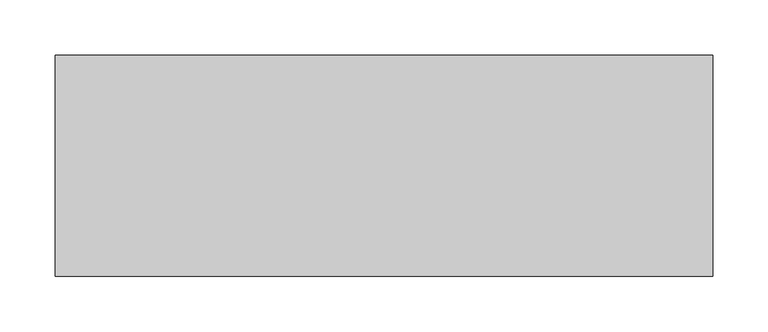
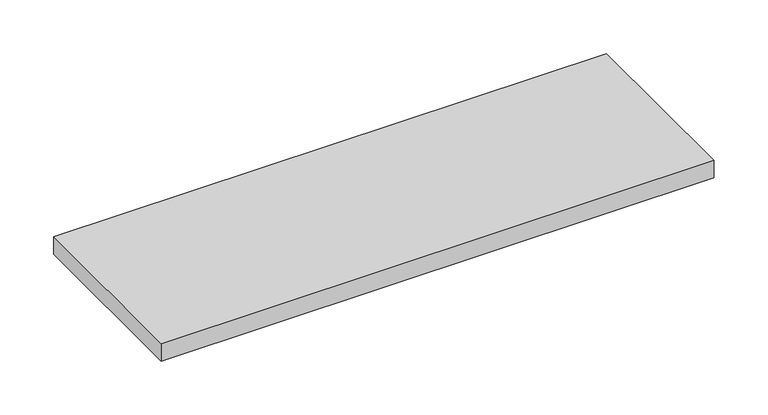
"""IFC4 building model written with IfcOpenShell, lengths in millimetres: light fixture geometry, GENILED_Светильник светодиодный_Офис Basic : Офис Basic 596x178x20 20Вт 4000К Опал."""

import ifcopenshell
import ifcopenshell.guid

model = None  # the IFC model being written
_history = None  # IfcOwnerHistory: only IFC2X3 demands one
_inside = {}  # id of a spatial element -> (the spatial element, [elements in it])
_under = {}  # id of a project, library or spatial element -> (it, [spatial elements below it])
_declared = {}  # id of a project -> (the project, [libraries it declares])
_typed = {}  # id of a type object -> (the type object, [elements of that type])
_made_of = {}  # id of a material, layer set ... -> (it, [elements and type objects made of it])


def new_model(schema):
    """Start an empty IFC model of exactly this schema.

    Asked for "IFC4X3", IfcOpenShell would pick the latest addendum, in which some entities
    have other attributes; the version numbers below select the first issue.
    IFC2X3 requires an IfcOwnerHistory on every rooted entity: one is made here for all.
    """
    global model, _history
    if schema == "IFC4X3":
        model = ifcopenshell.file(schema_version=(4, 3, 0, 0))
    else:
        model = ifcopenshell.file(schema=schema)
    _inside.clear()
    _under.clear()
    _declared.clear()
    _typed.clear()
    _made_of.clear()
    _history = None
    if model.schema == "IFC2X3":
        org = make("IfcOrganization", Name="unknown")
        user = make(
            "IfcPersonAndOrganization",
            ThePerson=make("IfcPerson", FamilyName="unknown"),
            TheOrganization=org,
        )
        app = make(
            "IfcApplication",
            ApplicationDeveloper=org,
            Version="unknown",
            ApplicationFullName="unknown",
            ApplicationIdentifier="unknown",
        )
        _history = make(
            "IfcOwnerHistory",
            OwningUser=user,
            OwningApplication=app,
            ChangeAction="ADDED",
            CreationDate=0,
        )
    return model


def make(cls, **values):
    """One entity of the class cls with the attributes given. An attribute that is None is left unset."""
    return model.create_entity(
        cls, **{name: value for name, value in values.items() if value is not None}
    )


def rooted(cls, **values):
    """An entity with a GlobalId (a new one), such as an element, a storey or a relation."""
    return make(cls, GlobalId=ifcopenshell.guid.new(), OwnerHistory=_history, **values)


def si_unit(unit_type, name, prefix=None):
    """IfcSIUnit, for example si_unit("LENGTHUNIT", "METRE", prefix="MILLI")."""
    return make("IfcSIUnit", UnitType=unit_type, Prefix=prefix, Name=name)


def assignment(units):
    """IfcUnitAssignment: the units of a project."""
    return None if units is None else make("IfcUnitAssignment", Units=units)


def point(xyz):
    """IfcCartesianPoint."""
    return None if xyz is None else make("IfcCartesianPoint", Coordinates=xyz)


def direction(xyz):
    """IfcDirection."""
    return None if xyz is None else make("IfcDirection", DirectionRatios=xyz)


def frame(location, z_axis=None, x_axis=None):
    """IfcAxis2Placement3D, a coordinate frame: its origin and axes. An axis left out is left unset."""
    return make(
        "IfcAxis2Placement3D",
        Location=point(location),
        Axis=direction(z_axis),
        RefDirection=direction(x_axis),
    )


def origin():
    """The frame at (0, 0, 0) with its axes left unset."""
    return frame((0.0, 0.0, 0.0))


def place(relative_to, where):
    """IfcLocalPlacement: puts the frame where relative to a parent placement (None: the world)."""
    return make(
        "IfcLocalPlacement", PlacementRelTo=relative_to, RelativePlacement=where
    )


def context(
    kind, dimensions, precision=None, world=None, true_north=None, identifier=None
):
    """IfcGeometricRepresentationContext, for example the 3D "Model" context."""
    return make(
        "IfcGeometricRepresentationContext",
        ContextIdentifier=identifier,
        ContextType=kind,
        CoordinateSpaceDimension=dimensions,
        Precision=precision,
        WorldCoordinateSystem=world,
        TrueNorth=true_north,
    )


def project(units=None, contexts=None):
    """IfcProject with its units and contexts."""
    return rooted(
        "IfcProject",
        Name="project",
        RepresentationContexts=contexts,
        UnitsInContext=assignment(units),
    )


def spatial(cls, under=None, at=None, **own):
    """A site, building, storey or space (cls), placed at a placement, below another one or the project."""
    s = rooted(cls, ObjectPlacement=at, **own)
    if under is not None:
        _under.setdefault(under.id(), (under, []))[1].append(s)
    return s


def faces_of(points, faces, orient=None, outer=None):
    """IfcFace entities. A face is a list of loops; a loop is a list of indices into points, from 0.

    orient and outer hold one flag for each loop. By default every Orientation is true, the
    first loop of a face is its IfcFaceOuterBound and the others are IfcFaceBound.
    """
    made = []
    for i, loops in enumerate(faces):
        bounds = []
        for j, loop in enumerate(loops):
            is_outer = j == 0 if outer is None else outer[i][j]
            bounds.append(
                make(
                    "IfcFaceOuterBound" if is_outer else "IfcFaceBound",
                    Bound=make("IfcPolyLoop", Polygon=[points[k] for k in loop]),
                    Orientation=True if orient is None else orient[i][j],
                )
            )
        made.append(make("IfcFace", Bounds=bounds))
    return made


def faceted_brep(points, faces, orient=None, outer=None, voids=None):
    """IfcFacetedBrep: a solid bounded by flat faces; with voids (closed shells), ...WithVoids."""
    shared = [point(p) for p in points]
    hull = make("IfcClosedShell", CfsFaces=faces_of(shared, faces, orient, outer))
    if voids is None:
        return make("IfcFacetedBrep", Outer=hull)
    return make(
        "IfcFacetedBrepWithVoids",
        Outer=hull,
        Voids=[
            make(cls, CfsFaces=faces_of(shared, fs, o, b)) for cls, fs, o, b in voids
        ],
    )


def shape(context_of_items, identifier, shape_type, items):
    """IfcShapeRepresentation: the items that make up one representation, for example the "Body"."""
    return make(
        "IfcShapeRepresentation",
        ContextOfItems=context_of_items,
        RepresentationIdentifier=identifier,
        RepresentationType=shape_type,
        Items=items,
    )


def source(mapping_origin, context_of_items, identifier, shape_type, items):
    """IfcRepresentationMap: a shape defined once, which mapped items show again and again."""
    return make(
        "IfcRepresentationMap",
        MappingOrigin=mapping_origin,
        MappedRepresentation=shape(context_of_items, identifier, shape_type, items),
    )


def transform(
    local_origin,
    x_axis=None,
    y_axis=None,
    z_axis=None,
    scale=None,
    scale2=None,
    scale3=None,
    uniform=True,
):
    """IfcCartesianTransformationOperator3D, or its non-uniform kind. x_axis, y_axis, z_axis: its Axis1, 2, 3."""
    if uniform:
        return make(
            "IfcCartesianTransformationOperator3D",
            Axis1=direction(x_axis),
            Axis2=direction(y_axis),
            LocalOrigin=point(local_origin),
            Scale=scale,
            Axis3=direction(z_axis),
        )
    return make(
        "IfcCartesianTransformationOperator3DnonUniform",
        Axis1=direction(x_axis),
        Axis2=direction(y_axis),
        LocalOrigin=point(local_origin),
        Scale=scale,
        Axis3=direction(z_axis),
        Scale2=scale2,
        Scale3=scale3,
    )


def mapped(mapping_source, mapping_target):
    """IfcMappedItem: shows the shape of a source again, moved by a transform."""
    return make(
        "IfcMappedItem", MappingSource=mapping_source, MappingTarget=mapping_target
    )


def made_of(thing, what):
    """Note that an element or type object is made of a material, layer set ...; save() writes the relation."""
    if what is not None:
        _made_of.setdefault(what.id(), (what, []))[1].append(thing)
    return thing


def element(
    cls,
    number,
    at=None,
    inside=None,
    cuts=None,
    type_object=None,
    material=None,
    context=None,
    identifier="Body",
    shape_type=None,
    held_by="IfcProductDefinitionShape",
    body=None,
    shapes=None,
    **own,
):
    """One element of the class cls, such as IfcWall. Its Tag is "e" and its number.

    at: its placement. inside: the storey or other place that contains it. cuts: it is an
    opening in that element (IfcRelVoidsElement). A single representation is given by context,
    identifier, shape_type and body (its items); several are given by shapes. held_by: the class
    of the entity that holds the representations. save() writes the other relations.
    """
    e = rooted(cls, Tag="e%d" % number, ObjectPlacement=at, **own)
    if body is not None:
        shapes = [shape(context, identifier, shape_type, body)]
    if shapes is not None:
        e.Representation = make(held_by, Representations=shapes)
    if inside is not None:
        _inside.setdefault(inside.id(), (inside, []))[1].append(e)
    if cuts is not None:
        rooted(
            "IfcRelVoidsElement", RelatingBuildingElement=cuts, RelatedOpeningElement=e
        )
    if type_object is not None:
        _typed.setdefault(type_object.id(), (type_object, []))[1].append(e)
    return made_of(e, material)


def aggregate(whole, parts):
    """IfcRelAggregates: a whole, such as a stair, and the parts it consists of."""
    return rooted("IfcRelAggregates", RelatingObject=whole, RelatedObjects=parts)


def save(model, path):
    """Write the relations noted so far, then the file.

    IfcRelAggregates (storeys below a building ...), IfcRelContainedInSpatialStructure (elements
    in a storey), IfcRelDefinesByType, IfcRelAssociatesMaterial and IfcRelDeclares: one each for
    every whole, place, type object, material and project.
    """
    for whole, parts in _under.values():
        aggregate(whole, parts)
    for where, things in _inside.values():
        rooted(
            "IfcRelContainedInSpatialStructure",
            RelatedElements=things,
            RelatingStructure=where,
        )
    for kind, things in _typed.values():
        rooted("IfcRelDefinesByType", RelatedObjects=things, RelatingType=kind)
    for what, things in _made_of.values():
        rooted("IfcRelAssociatesMaterial", RelatedObjects=things, RelatingMaterial=what)
    for by, libraries in _declared.values():
        rooted("IfcRelDeclares", RelatingContext=by, RelatedDefinitions=libraries)
    model.write(path)


def light_fixture_37fa3926(model_context):
    return source(origin(), model_context, "Body", "Brep", [
        faceted_brep([(297.5, 100.0, 20.0), (-297.5, 100.0, 20.0), (-297.5, -100.0, 20.0), (297.5, -100.0, 20.0), (297.5, 100.0, 0.0), (297.5, -100.0, 0.0), (-297.5, -100.0, 0.0), (-297.5, 100.0, 0.0), (287.5, 90.0, 0.0), (-287.5, 90.0, 0.0), (-287.5, -90.0, 0.0), (287.5, -90.0, 0.0), (287.5, -90.0, 5.0), (287.5, 90.0, 5.0), (-287.5, -90.0, 5.0), (-287.5, 90.0, 5.0)], [[[0, 1, 2, 3]], [[4, 5, 6, 7], [8, 9, 10, 11]], [[1, 0, 4, 7]], [[2, 1, 7, 6]], [[3, 2, 6, 5]], [[0, 3, 5, 4]], [[8, 11, 12, 13]], [[11, 10, 14, 12]], [[10, 9, 15, 14]], [[9, 8, 13, 15]], [[13, 12, 14, 15]]]),
    ])


if __name__ == "__main__":
    model = new_model("IFC4")
    model_context = context("Model", 3, world=origin())
    ifc_project = project(units=[si_unit("LENGTHUNIT", "METRE", prefix="MILLI")], contexts=[model_context])
    site = spatial("IfcSite", under=ifc_project)
    building = spatial("IfcBuilding", under=site)
    placement = place(None, origin())
    light_fixture_shape = light_fixture_37fa3926(model_context)
    element("IfcLightFixture", 1, ObjectType="GENILED_Светильник светодиодный_Офис Basic : Офис Basic 596x178x20 20Вт 4000К Опал", at=placement, inside=building, context=model_context, shape_type="MappedRepresentation", body=[
        mapped(light_fixture_shape, transform((0.0, 0.0, 0.0), x_axis=(1.0, 0.0, 0.0), y_axis=(0.0, 1.0, 0.0), z_axis=(0.0, 0.0, 1.0))),
    ])
    save(model, "model.ifc")
